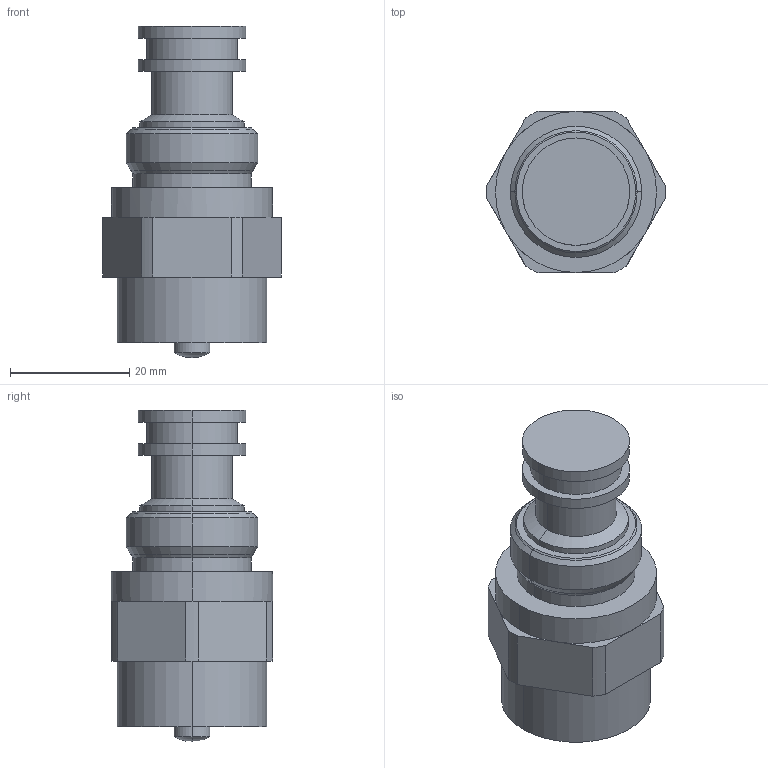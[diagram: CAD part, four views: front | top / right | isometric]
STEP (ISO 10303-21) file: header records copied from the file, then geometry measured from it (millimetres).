
FILE_DESCRIPTION((''),'2;1');
FILE_NAME('15955600','2022-11-25T',('l.soukupova'),(''),'PRO/ENGINEER BY PARAMETRIC TECHNOLOGY CORPORATION, 2015440','PRO/ENGINEER BY PARAMETRIC TECHNOLOGY CORPORATION, 2015440','');
FILE_SCHEMA(('AUTOMOTIVE_DESIGN { 1 0 10303 214 1 1 1 1 }'));
Length unit declared in the file: millimetre
Products named in the file (1): 15955600
Bounding box: 29.99 x 27 x 55.5 mm (x, y, z)
Volume: 21292.5 mm3; surface area: 5795.7 mm2
Topology: 1 solids, 2 shells, 58 faces, 133 edges, 85 vertices
Faces by surface type: cylinder 28, plane 22, cone 6, sphere 2
Entity records: 2134 total; most frequent: DIRECTION 319, CARTESIAN_POINT 272, ORIENTED_EDGE 252, PRESENTATION_STYLE_ASSIGNMENT 135, STYLED_ITEM 135, CURVE_STYLE 133, AXIS2_PLACEMENT_3D 128, EDGE_CURVE 128
